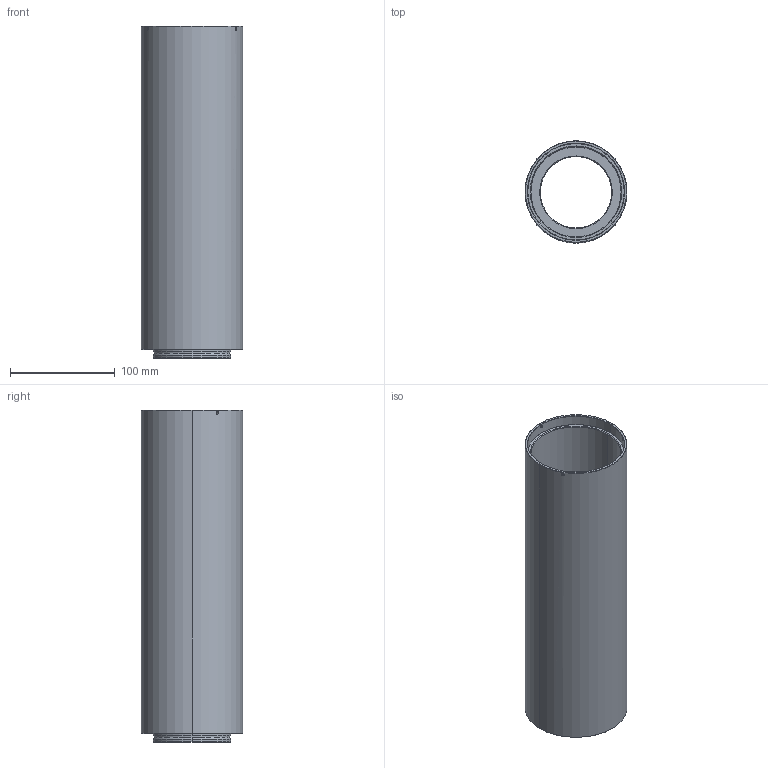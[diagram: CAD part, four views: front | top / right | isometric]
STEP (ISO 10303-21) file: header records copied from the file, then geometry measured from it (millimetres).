
FILE_DESCRIPTION (( 'STEP AP214' ), '1' );
FILE_NAME ('ML-12012-350-EXR-V92V74.STEP', '2026-03-02T02:32:06', ( '' ), ( '' ), 'SwSTEP 2.0', 'SolidWorks 2025', '' );
FILE_SCHEMA (( 'AUTOMOTIVE_DESIGN' ));
Length unit declared in the file: millimetre
Products named in the file (1): ML-12012-350-EXR-V92V74
Bounding box: 97 x 97 x 316.2 mm (x, y, z)
Volume: 492912.7 mm3; surface area: 188379.2 mm2
Topology: 1 solids, 1 shells, 49 faces, 104 edges, 62 vertices
Faces by surface type: cylinder 22, cone 16, plane 7, torus 4
Entity records: 1559 total; most frequent: CARTESIAN_POINT 444, DIRECTION 246, ORIENTED_EDGE 208, EDGE_CURVE 104, AXIS2_PLACEMENT_3D 104, EDGE_LOOP 62, VERTEX_POINT 62, CIRCLE 54
